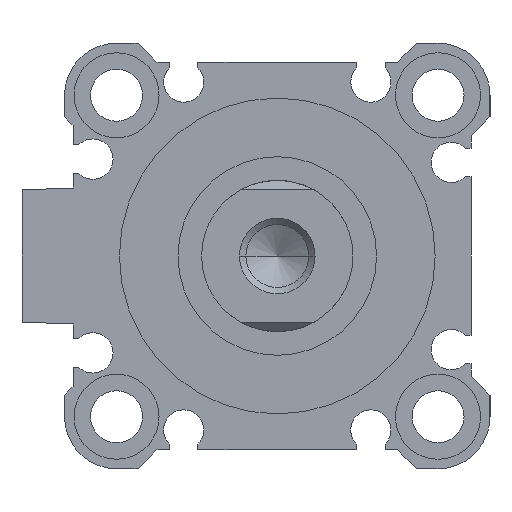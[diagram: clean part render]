
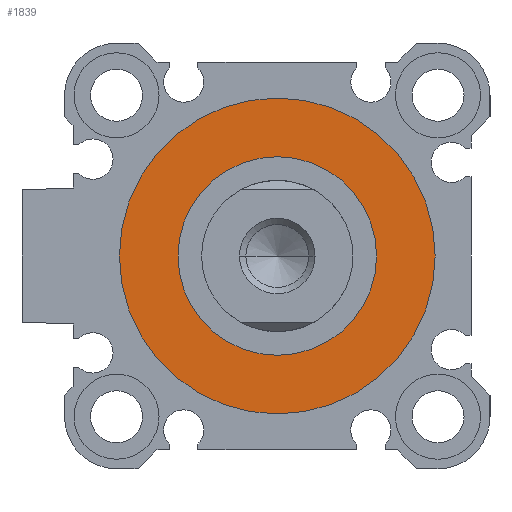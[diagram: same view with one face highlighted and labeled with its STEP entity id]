
A CAD part, left-side view. The second image highlights one B-rep face of the part: STEP entity #1839.
In plain terms, the highlighted planar face has unit normal (-1, 0, 0).
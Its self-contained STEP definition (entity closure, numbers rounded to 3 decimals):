
#85 = DIRECTION ( 'NONE',  ( 0., 0., -1. ) ) ;
#158 = EDGE_CURVE ( 'NONE', #5001, #2715, #1292, .T. ) ;
#301 = EDGE_CURVE ( 'NONE', #1537, #4058, #2425, .T. ) ;
#744 = CARTESIAN_POINT ( 'NONE',  ( 2.1, 0., 16.7 ) ) ;
#907 = CARTESIAN_POINT ( 'NONE',  ( 2.1, 0., 0. ) ) ;
#1286 = PLANE ( 'NONE',  #3940 ) ;
#1292 = CIRCLE ( 'NONE', #4700, 16.7 ) ;
#1495 = DIRECTION ( 'NONE',  ( 1., 0., 0. ) ) ;
#1504 = EDGE_CURVE ( 'NONE', #4058, #1537, #2565, .T. ) ;
#1537 = VERTEX_POINT ( 'NONE', #3780 ) ;
#1629 = DIRECTION ( 'NONE',  ( 1., 0., 0. ) ) ;
#1707 = CARTESIAN_POINT ( 'NONE',  ( 2.1, 0., 0. ) ) ;
#1839 = ADVANCED_FACE ( 'NONE', ( #2511, #3671 ), #1286, .F. ) ;
#2126 = ORIENTED_EDGE ( 'NONE', *, *, #2464, .F. ) ;
#2369 = CARTESIAN_POINT ( 'NONE',  ( 2.1, 0., 0. ) ) ;
#2425 = CIRCLE ( 'NONE', #4289, 10.5 ) ;
#2464 = EDGE_CURVE ( 'NONE', #2715, #5001, #4090, .T. ) ;
#2471 = AXIS2_PLACEMENT_3D ( 'NONE', #907, #1495, #2822 ) ;
#2504 = DIRECTION ( 'NONE',  ( 1., 0., 0. ) ) ;
#2511 = FACE_OUTER_BOUND ( 'NONE', #4364, .T. ) ;
#2565 = CIRCLE ( 'NONE', #4507, 10.5 ) ;
#2715 = VERTEX_POINT ( 'NONE', #4113 ) ;
#2822 = DIRECTION ( 'NONE',  ( 0., 0., -1. ) ) ;
#2837 = DIRECTION ( 'NONE',  ( 1., 0., 0. ) ) ;
#2861 = CARTESIAN_POINT ( 'NONE',  ( 2.1, 0., 0. ) ) ;
#2914 = DIRECTION ( 'NONE',  ( 0., 0., -1. ) ) ;
#2941 = DIRECTION ( 'NONE',  ( 0., 1., 0. ) ) ;
#3019 = DIRECTION ( 'NONE',  ( 0., 0., -1. ) ) ;
#3635 = EDGE_LOOP ( 'NONE', ( #3637, #4296 ) ) ;
#3637 = ORIENTED_EDGE ( 'NONE', *, *, #1504, .T. ) ;
#3652 = ORIENTED_EDGE ( 'NONE', *, *, #158, .F. ) ;
#3671 = FACE_BOUND ( 'NONE', #3635, .T. ) ;
#3780 = CARTESIAN_POINT ( 'NONE',  ( 2.1, 0., -10.5 ) ) ;
#3940 = AXIS2_PLACEMENT_3D ( 'NONE', #2861, #2837, #2941 ) ;
#4002 = CARTESIAN_POINT ( 'NONE',  ( 2.1, 0., 10.5 ) ) ;
#4058 = VERTEX_POINT ( 'NONE', #4002 ) ;
#4090 = CIRCLE ( 'NONE', #2471, 16.7 ) ;
#4113 = CARTESIAN_POINT ( 'NONE',  ( 2.1, 0., -16.7 ) ) ;
#4289 = AXIS2_PLACEMENT_3D ( 'NONE', #1707, #2504, #2914 ) ;
#4296 = ORIENTED_EDGE ( 'NONE', *, *, #301, .T. ) ;
#4364 = EDGE_LOOP ( 'NONE', ( #3652, #2126 ) ) ;
#4507 = AXIS2_PLACEMENT_3D ( 'NONE', #4934, #4954, #3019 ) ;
#4700 = AXIS2_PLACEMENT_3D ( 'NONE', #2369, #1629, #85 ) ;
#4934 = CARTESIAN_POINT ( 'NONE',  ( 2.1, 0., 0. ) ) ;
#4954 = DIRECTION ( 'NONE',  ( 1., 0., 0. ) ) ;
#5001 = VERTEX_POINT ( 'NONE', #744 ) ;
